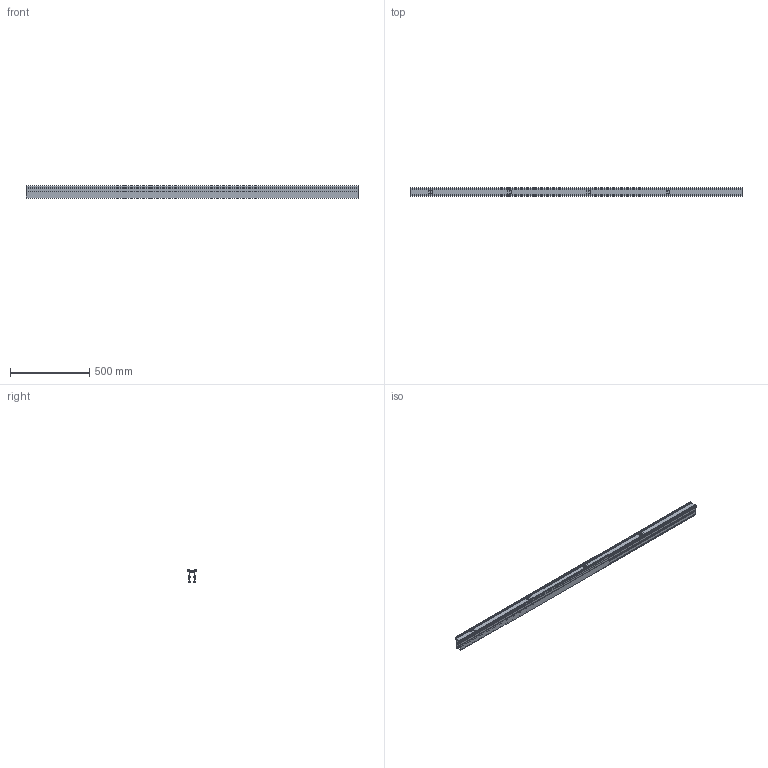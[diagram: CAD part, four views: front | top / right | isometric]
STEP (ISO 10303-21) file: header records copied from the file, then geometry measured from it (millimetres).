
FILE_DESCRIPTION(('STEP AP242'),'1');
FILE_NAME('OPO_65.084.11_volu_schn_3d.stp','2026-02-23T17:29:11',(' '),(' '),'Spatial InterOp 3D',' ',' ');
FILE_SCHEMA(('AP242_MANAGED_MODEL_BASED_3D_ENGINEERING_MIM_LF {1 0 10303 442 1 1 4}'));
Length unit declared in the file: millimetre
Products named in the file (1): 1
Bounding box: 2100 x 55 x 81 mm (x, y, z)
Volume: 1788015 mm3; surface area: 1310549 mm2
Topology: 5 solids, 5 shells, 282 faces, 3602 edges, 6101 vertices
Faces by surface type: plane 222, cylinder 60
Entity records: 45745 total; most frequent: CARTESIAN_POINT 4658, DIRECTION 4640, LINE 3132, VECTOR 3132, STYLED_ITEM 3116, PRESENTATION_STYLE_ASSIGNMENT 3116, COLOUR_RGB 3116, COMPOSITE_CURVE 2834
